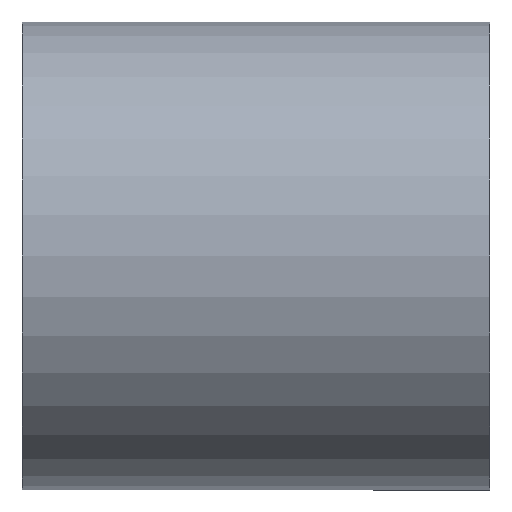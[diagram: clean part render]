
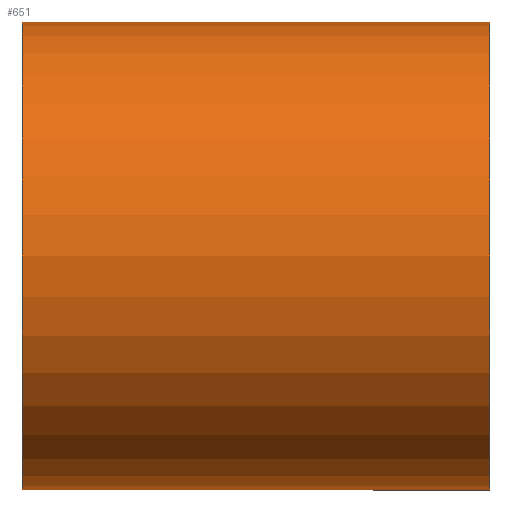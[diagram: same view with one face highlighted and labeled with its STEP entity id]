
A CAD part, front view. The second image highlights one B-rep face of the part: STEP entity #651.
In plain terms, the highlighted cylindrical face has radius 25 mm (diameter 50 mm), a partial arc.
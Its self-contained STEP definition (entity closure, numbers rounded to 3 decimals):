
#1 = EDGE_CURVE ( 'NONE', #396, #168, #116, .T. ) ;
#3 = LINE ( 'NONE', #388, #563 ) ;
#16 = EDGE_LOOP ( 'NONE', ( #270, #345, #501, #665 ) ) ;
#18 = CYLINDRICAL_SURFACE ( 'NONE', #37, 25. ) ;
#19 = AXIS2_PLACEMENT_3D ( 'NONE', #32, #306, #573 ) ;
#23 = DIRECTION ( 'NONE',  ( -1., 0., 0. ) ) ;
#32 = CARTESIAN_POINT ( 'NONE',  ( 25., 0., 0. ) ) ;
#37 = AXIS2_PLACEMENT_3D ( 'NONE', #239, #23, #639 ) ;
#116 = LINE ( 'NONE', #333, #161 ) ;
#132 = CIRCLE ( 'NONE', #19, 25. ) ;
#161 = VECTOR ( 'NONE', #620, 1000. ) ;
#168 = VERTEX_POINT ( 'NONE', #272 ) ;
#177 = EDGE_CURVE ( 'NONE', #566, #168, #514, .T. ) ;
#239 = CARTESIAN_POINT ( 'NONE',  ( 0., 0., 0. ) ) ;
#270 = ORIENTED_EDGE ( 'NONE', *, *, #592, .F. ) ;
#272 = CARTESIAN_POINT ( 'NONE',  ( -25., 0., 25. ) ) ;
#276 = DIRECTION ( 'NONE',  ( -1., 0., 0. ) ) ;
#290 = FACE_OUTER_BOUND ( 'NONE', #16, .T. ) ;
#306 = DIRECTION ( 'NONE',  ( -1., 0., 0. ) ) ;
#321 = CARTESIAN_POINT ( 'NONE',  ( -25., 0., -25. ) ) ;
#333 = CARTESIAN_POINT ( 'NONE',  ( 0., 0., 25. ) ) ;
#345 = ORIENTED_EDGE ( 'NONE', *, *, #652, .T. ) ;
#378 = DIRECTION ( 'NONE',  ( 0., 0., 1. ) ) ;
#388 = CARTESIAN_POINT ( 'NONE',  ( 0., 0., -25. ) ) ;
#392 = DIRECTION ( 'NONE',  ( -1., 0., 0. ) ) ;
#396 = VERTEX_POINT ( 'NONE', #473 ) ;
#451 = VERTEX_POINT ( 'NONE', #640 ) ;
#473 = CARTESIAN_POINT ( 'NONE',  ( 25., 0., 25. ) ) ;
#479 = AXIS2_PLACEMENT_3D ( 'NONE', #716, #276, #378 ) ;
#501 = ORIENTED_EDGE ( 'NONE', *, *, #1, .T. ) ;
#514 = CIRCLE ( 'NONE', #479, 25. ) ;
#563 = VECTOR ( 'NONE', #392, 1000. ) ;
#566 = VERTEX_POINT ( 'NONE', #321 ) ;
#573 = DIRECTION ( 'NONE',  ( 0., 0., 1. ) ) ;
#592 = EDGE_CURVE ( 'NONE', #451, #566, #3, .T. ) ;
#620 = DIRECTION ( 'NONE',  ( -1., 0., 0. ) ) ;
#639 = DIRECTION ( 'NONE',  ( 0., 0., 1. ) ) ;
#640 = CARTESIAN_POINT ( 'NONE',  ( 25., 0., -25. ) ) ;
#651 = ADVANCED_FACE ( 'NONE', ( #290 ), #18, .T. ) ;
#652 = EDGE_CURVE ( 'NONE', #451, #396, #132, .T. ) ;
#665 = ORIENTED_EDGE ( 'NONE', *, *, #177, .F. ) ;
#716 = CARTESIAN_POINT ( 'NONE',  ( -25., 0., 0. ) ) ;
